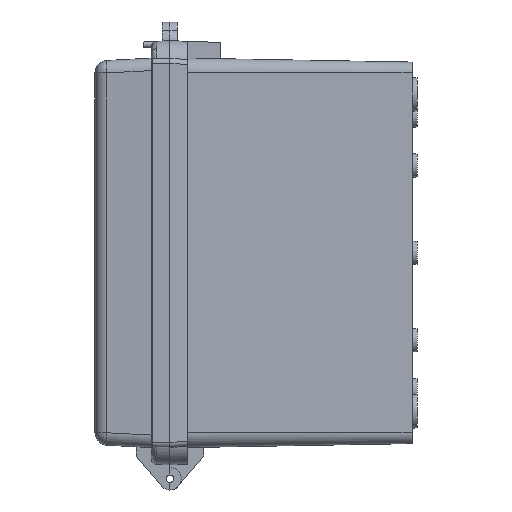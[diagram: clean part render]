
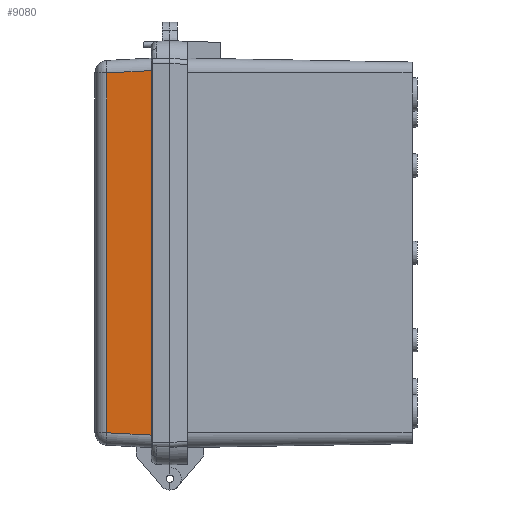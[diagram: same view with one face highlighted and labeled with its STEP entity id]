
A CAD part, left-side view. The second image highlights one B-rep face of the part: STEP entity #9080.
In plain terms, the highlighted planar face has unit normal (-0.999, 0.052, 0).
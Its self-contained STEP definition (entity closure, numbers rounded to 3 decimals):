
#568 = CARTESIAN_POINT ( 'NONE',  ( -103., 7.5, 78. ) ) ;
#808 = DIRECTION ( 'NONE',  ( -0.999, 0.052, 0. ) ) ;
#893 = EDGE_LOOP ( 'NONE', ( #1682, #19424, #13011, #21787 ) ) ;
#1004 = VECTOR ( 'NONE', #4501, 1000. ) ;
#1682 = ORIENTED_EDGE ( 'NONE', *, *, #12858, .T. ) ;
#1809 = VERTEX_POINT ( 'NONE', #23576 ) ;
#2258 = FACE_OUTER_BOUND ( 'NONE', #893, .T. ) ;
#2476 = DIRECTION ( 'NONE',  ( -0.052, -0.997, -0.052 ) ) ;
#3194 = VECTOR ( 'NONE', #2476, 1000. ) ;
#4184 = VERTEX_POINT ( 'NONE', #23526 ) ;
#4279 = CARTESIAN_POINT ( 'NONE',  ( -102.588, 15.371, -72.594 ) ) ;
#4308 = CARTESIAN_POINT ( 'NONE',  ( -103., 7.5, 78. ) ) ;
#4381 = EDGE_CURVE ( 'NONE', #4184, #15570, #17243, .T. ) ;
#4501 = DIRECTION ( 'NONE',  ( 0.052, 0.997, -0.052 ) ) ;
#6098 = LINE ( 'NONE', #4279, #3194 ) ;
#6277 = CARTESIAN_POINT ( 'NONE',  ( -102.069, 25.262, 78. ) ) ;
#6760 = CARTESIAN_POINT ( 'NONE',  ( -102.069, 25.262, -72.076 ) ) ;
#7524 = VERTEX_POINT ( 'NONE', #6760 ) ;
#7995 = CARTESIAN_POINT ( 'NONE',  ( -103., 7.5, -73.007 ) ) ;
#9080 = ADVANCED_FACE ( 'NONE', ( #2258 ), #9860, .T. ) ;
#9860 = PLANE ( 'NONE',  #10931 ) ;
#9977 = DIRECTION ( 'NONE',  ( -0.052, -0.999, 0. ) ) ;
#10931 = AXIS2_PLACEMENT_3D ( 'NONE', #568, #808, #9977 ) ;
#11484 = DIRECTION ( 'NONE',  ( 0., 0., -1. ) ) ;
#11621 = LINE ( 'NONE', #20798, #1004 ) ;
#12858 = EDGE_CURVE ( 'NONE', #4184, #1809, #11621, .T. ) ;
#13011 = ORIENTED_EDGE ( 'NONE', *, *, #20796, .T. ) ;
#15570 = VERTEX_POINT ( 'NONE', #7995 ) ;
#17176 = EDGE_CURVE ( 'NONE', #1809, #7524, #20662, .T. ) ;
#17243 = LINE ( 'NONE', #4308, #20458 ) ;
#19424 = ORIENTED_EDGE ( 'NONE', *, *, #17176, .T. ) ;
#20458 = VECTOR ( 'NONE', #22320, 1000. ) ;
#20662 = LINE ( 'NONE', #6277, #22248 ) ;
#20796 = EDGE_CURVE ( 'NONE', #7524, #15570, #6098, .T. ) ;
#20798 = CARTESIAN_POINT ( 'NONE',  ( -103.014, 7.24, 73.02 ) ) ;
#21787 = ORIENTED_EDGE ( 'NONE', *, *, #4381, .F. ) ;
#22248 = VECTOR ( 'NONE', #11484, 1000. ) ;
#22320 = DIRECTION ( 'NONE',  ( 0., 0., -1. ) ) ;
#23526 = CARTESIAN_POINT ( 'NONE',  ( -103., 7.5, 73.007 ) ) ;
#23576 = CARTESIAN_POINT ( 'NONE',  ( -102.069, 25.262, 72.076 ) ) ;
